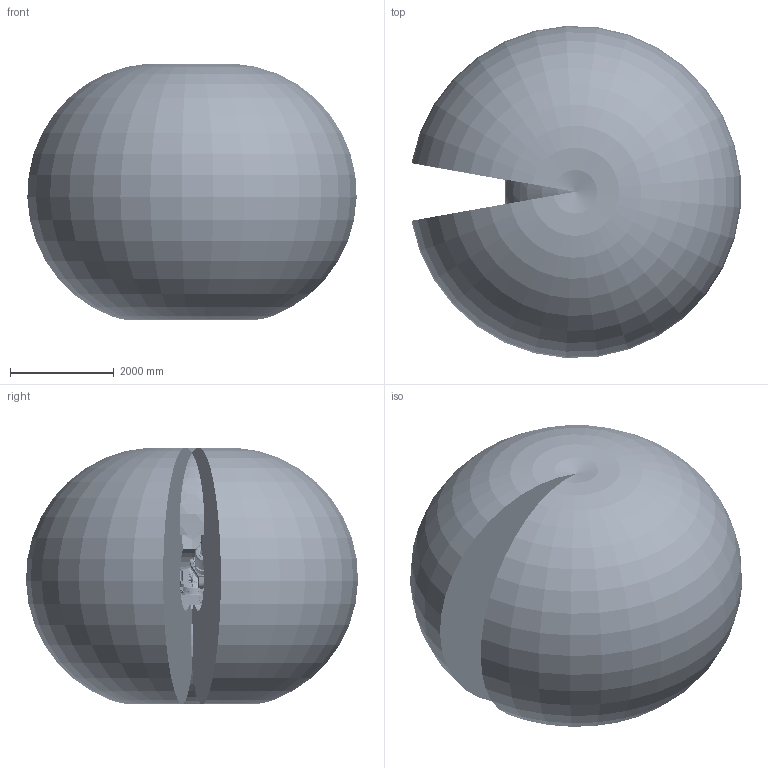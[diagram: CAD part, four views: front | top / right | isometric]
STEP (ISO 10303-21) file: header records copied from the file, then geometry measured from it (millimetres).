
FILE_DESCRIPTION (( 'STEP AP214' ), '1' );
FILE_NAME ('IRB6750S_350kg-320_OC_02_ASM_CAD.step', '2026-05-07T13:40:04', ( '' ), ( '' ), 'SwSTEP 2.0', 'SolidWorks 2024', '' );
FILE_SCHEMA (( 'AUTOMOTIVE_DESIGN' ));
Length unit declared in the file: millimetre
Products named in the file (14): IRB6750S_All-320_OC_00_LINK04_CAD; IRB6750S_All_OC_00_LINK01_CAD; IRB6750S-ALL-OC_00_LINK01m_CABLE; IRB6750S_350kg-320_OC_02_LINK05_CAD; IRB6750S_350kg-320_OC_02_ASM_CAD; IRB6750S_All_OC_00_LINK03_CAD; IRB6750S-ALL-OC_00_LINK02m_CABLE; IRB6750S_350kg-320_OC_02_LINK06_CAD; IRB6750S_350kg-320_OC_00_Working-envelope; IRB6750S-ALL-OC_00_LINK03m_CABLE; IRB6750S_All_OC_00_CYL_CAD; IRB6750S_All_OC_00_BASE_CAD; IRB6750S_All_OC_00_ROD_CAD; IRB6750S_All_OC_00_LINK02_CAD
Assembly tree (13 placements, depth 2):
  IRB6750S_350kg-320_OC_02_ASM_CAD
    IRB6750S_All_OC_00_BASE_CAD
    IRB6750S_All_OC_00_LINK01_CAD
    IRB6750S_All_OC_00_CYL_CAD
    IRB6750S_All_OC_00_ROD_CAD
    IRB6750S_All_OC_00_LINK03_CAD
    IRB6750S_All_OC_00_LINK02_CAD
    IRB6750S_All-320_OC_00_LINK04_CAD
    IRB6750S-ALL-OC_00_LINK01m_CABLE
    IRB6750S-ALL-OC_00_LINK02m_CABLE
    IRB6750S-ALL-OC_00_LINK03m_CABLE
    IRB6750S_350kg-320_OC_00_Working-envelope
    IRB6750S_350kg-320_OC_02_LINK05_CAD
    IRB6750S_350kg-320_OC_02_LINK06_CAD
Bounding box: 6332.66 x 6385.75 x 4935.55 mm (x, y, z)
Volume: 103557097977.7 mm3; surface area: 166683079.6 mm2
Topology: 18 solids, 61 shells, 6795 faces, 17253 edges, 11266 vertices
Faces by surface type: plane 3602, cylinder 1356, cone 960, bspline 702, torus 161, sphere 14
Full cylindrical faces by diameter (mm): 0.1 x1, 3.3 x2, 4 x2, 4.2 x4, 4.8 x3, 5 x35, 5.2 x4, 5.45 x1, 6 x5, 6.5 x2, 6.6 x4, 6.8 x20, 7 x4, 8 x12, 8.3 x2, 8.5 x24, 9 x4, 9.5 x4, 10 x16, 10.2 x39, 10.5 x1, 11.05 x2, 11.8 x4, 12 x33, 13 x24, 13.27 x16, 14 x27, 16 x35, 16.27 x41, 17 x57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
Entity records: 363965 total; most frequent: CARTESIAN_POINT 161565, ORIENTED_EDGE 30326, DIRECTION 27300, EDGE_CURVE 15163, VERTEX_POINT 10615, AXIS2_PLACEMENT_3D 10252, EDGE_LOOP 9114, FACE_OUTER_BOUND 7705
